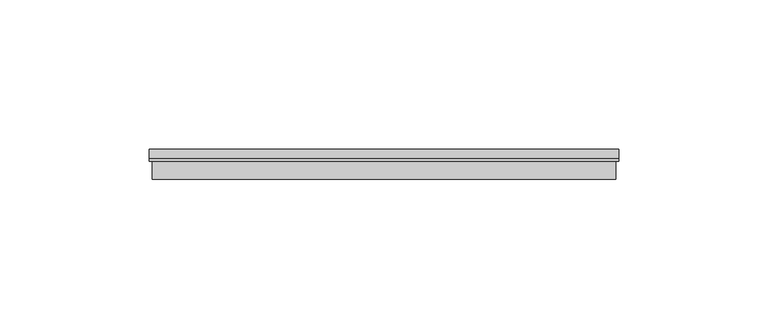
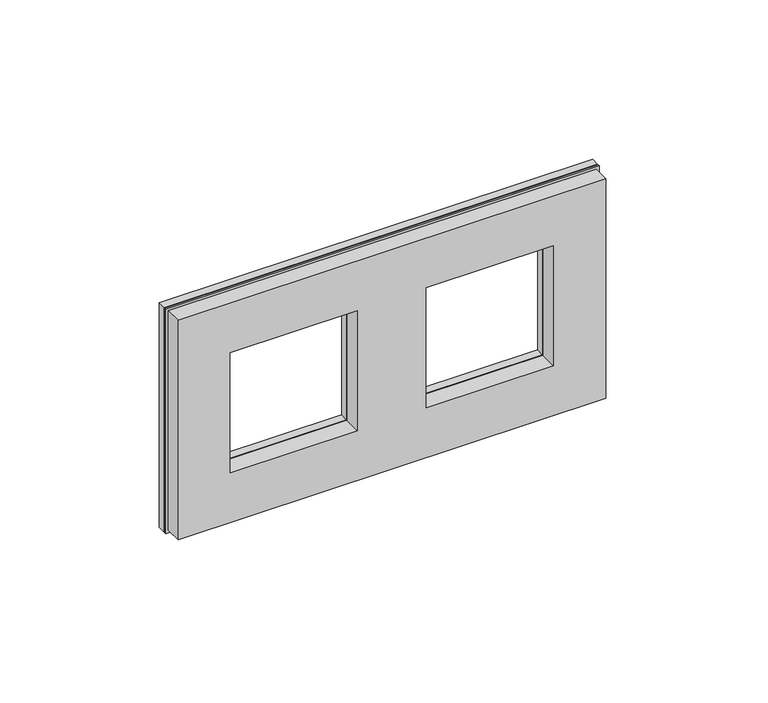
"""IFC4 building model written with IfcOpenShell, lengths in millimetres: proxy geometry, IEK_Skandy_Рамка : x2_SK-F22B."""

from ifc_helpers import new_model, si_unit, frame, origin, place, context, project, spatial, polyline, outline, extrude, faceted_brep, source, transform, mapped, element, save


def electrical_fixtures_cb041ce0(model_context):
    return source(origin(), model_context, "Body", "SolidModel", [
        extrude(outline(polyline([(43.0, -114.0), (-43.0, -114.0), (-43.0, 43.0), (43.0, 43.0), (43.0, -114.0)]), holes=[polyline([(23.0, -23.0), (23.0, 23.0), (-23.0, 23.0), (-23.0, -23.0), (23.0, -23.0)]), polyline([(23.0, -94.0), (23.0, -48.0), (-23.0, -48.0), (-23.0, -94.0), (23.0, -94.0)])]), frame((0.0, 7.0, 0.0), z_axis=(0.0, 1.0, 0.0), x_axis=(0.0, 0.0, 1.0)), (0.0, 0.0, 1.0), 3.0),
        faceted_brep([(-23.0, 0.0, 23.0), (-23.0, 7.0, 23.0), (23.0, 7.0, 23.0), (23.0, 0.0, 23.0), (23.0, 7.0, -23.0), (23.0, 0.0, -23.0), (-23.0, 7.0, -23.0), (-23.0, 0.0, -23.0), (-114.0, 7.0, 43.0), (43.0, 7.0, 43.0), (43.0, 7.0, -43.0), (-114.0, 7.0, -43.0), (-48.0, 7.0, 23.0), (-94.0, 7.0, 23.0), (-94.0, 7.0, -23.0), (-48.0, 7.0, -23.0), (-113.0, 0.0, 42.0), (-113.0, 0.0, -42.0), (42.0, 0.0, -42.0), (42.0, 0.0, 42.0), (-94.0, 0.0, 23.0), (-48.0, 0.0, 23.0), (-48.0, 0.0, -23.0), (-94.0, 0.0, -23.0), (-113.0, 6.0, 42.0), (-113.0, 6.0, -42.0), (42.0, 6.0, -42.0), (42.0, 6.0, 42.0), (-114.0, 6.0, 43.0), (-114.0, 6.0, -43.0), (43.0, 6.0, -43.0), (43.0, 6.0, 43.0)], [[[0, 1, 2, 3]], [[3, 2, 4, 5]], [[5, 4, 6, 7]], [[1, 0, 7, 6]], [[8, 9, 10, 11], [2, 1, 6, 4], [12, 13, 14, 15]], [[16, 17, 18, 19], [0, 3, 5, 7], [20, 21, 22, 23]], [[17, 16, 24, 25]], [[18, 17, 25, 26]], [[19, 18, 26, 27]], [[16, 19, 27, 24]], [[20, 13, 12, 21]], [[21, 12, 15, 22]], [[22, 15, 14, 23]], [[13, 20, 23, 14]], [[28, 29, 30, 31], [25, 24, 27, 26]], [[29, 28, 8, 11]], [[30, 29, 11, 10]], [[31, 30, 10, 9]], [[28, 31, 9, 8]]]),
    ])


if __name__ == "__main__":
    model = new_model("IFC4")
    model_context = context("Model", 3, world=origin())
    ifc_project = project(units=[si_unit("LENGTHUNIT", "METRE", prefix="MILLI")], contexts=[model_context])
    site = spatial("IfcSite", under=ifc_project)
    building = spatial("IfcBuilding", under=site)
    placement = place(None, origin())
    electrical_fixtures_shape = electrical_fixtures_cb041ce0(model_context)
    element("IfcBuildingElementProxy", 1, Name="IEK_Skandy_Рамка : x2_SK-F22B", ObjectType="IEK_Skandy_Рамка : x2_SK-F22B", at=placement, inside=building, context=model_context, shape_type="MappedRepresentation", body=[
        mapped(electrical_fixtures_shape, transform((0.0, 0.0, 0.0), x_axis=(1.0, 0.0, 0.0), y_axis=(0.0, 1.0, 0.0), z_axis=(0.0, 0.0, 1.0))),
    ])
    save(model, "model.ifc")
